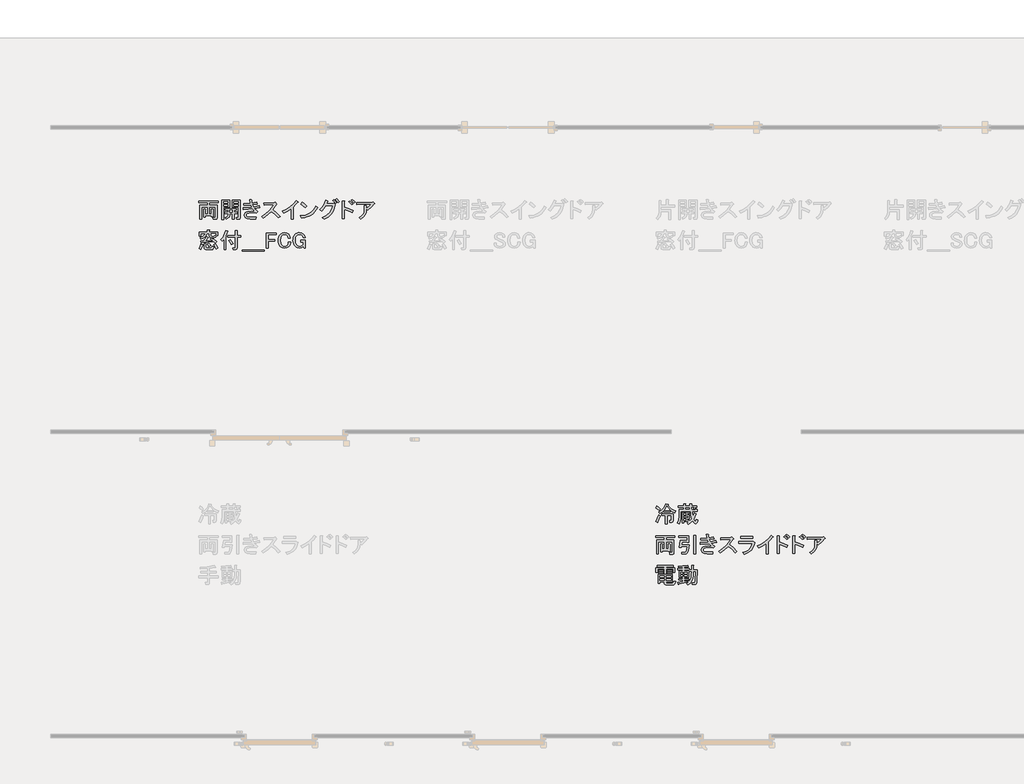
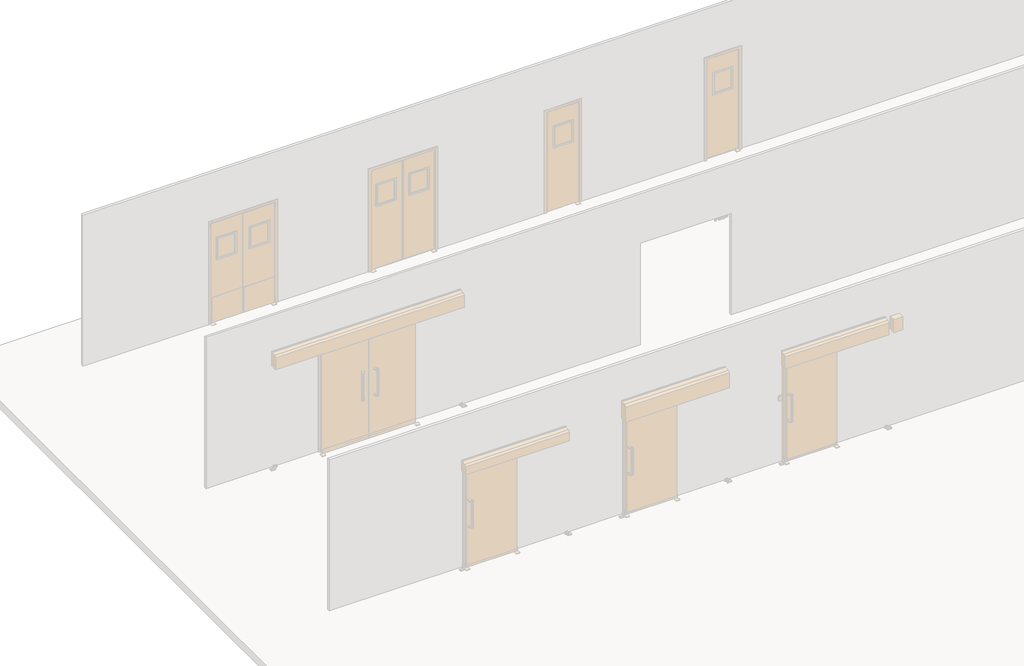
# One storey, part 77 of 117: 2 proxies.
"""IFC4 building model written with IfcOpenShell, lengths in millimetres."""

from ifc_helpers import new_model, si_unit, frame, origin, place, context, project, spatial, polyline, outline, extrude, element, save

model = new_model("IFC4")

# Units and contexts
model_context = context("Model", 3, world=origin())
ifc_project = project(units=[si_unit("LENGTHUNIT", "METRE", prefix="MILLI")], contexts=[model_context])

# Site, building, storey
site = spatial("IfcSite", under=ifc_project)
building = spatial("IfcBuilding", under=site)
storey = spatial("IfcBuildingStorey", under=building, Name="レベル 1", Elevation=500.0)

# Proxies
placement = place(None, origin())
element("IfcBuildingElementProxy", 1, Name="200㎜\u3000MS Pゴシック", ObjectType="200㎜\u3000MS Pゴシック", at=placement, inside=storey, context=model_context, shape_type="SweptSolid", body=[
    extrude(outline(polyline([(-24019.8425516, 31011.7252868), (-24019.8425516, 30976.0920778), (-23918.6902167, 30976.0920778), (-23918.6902167, 30807.1217001), (-23922.7133209, 30795.0523874), (-23934.7826336, 30791.0292832), (-23970.4158425, 30791.0292832), (-23973.8642176, 30812.8689919), (-23946.2772171, 30812.8689919), (-23942.8288421, 30814.0184502), (-23941.6793837, 30817.4668253), (-23941.6793837, 30954.2523692), (-24019.8425516, 30954.2523692), (-24019.8425516, 30858.8473259), (-23992.2555512, 30858.8473259), (-23992.2555512, 30924.366452), (-23970.4158425, 30924.366452), (-23965.5306445, 30922.0675353), (-23969.2663841, 30917.4697019), (-23969.2663841, 30826.6624921), (-23992.2555512, 30826.6624921), (-23992.2555512, 30837.0076172), (-24070.4187191, 30837.0076172), (-24070.4187191, 30817.4668253), (-24093.4078862, 30817.4668253), (-24093.4078862, 30924.366452), (-24071.5681775, 30924.366452), (-24066.6829795, 30922.0675353), (-24070.4187191, 30917.4697019), (-24070.4187191, 30858.8473259), (-24042.8317187, 30858.8473259), (-24042.8317187, 30954.2523692), (-24120.9948866, 30954.2523692), (-24120.9948866, 30792.1787415), (-24143.9840537, 30792.1787415), (-24143.9840537, 30976.0920778), (-24042.8317187, 30976.0920778), (-24042.8317187, 31011.7252868), (-24157.7775539, 31011.7252868), (-24157.7775539, 31033.5649954), (-23904.8967164, 31033.5649954), (-23904.8967164, 31011.7252868), (-24019.8425516, 31011.7252868)])), frame((0.0, 0.0, 500.0), z_axis=(0.0, 0.0, 1.0), x_axis=(1.0, 0.0, 0.0)), (0.0, 0.0, 1.0), 25.0),
    extrude(outline(polyline([(-23722.1328385, 31043.9101206), (-23614.0837534, 31043.9101206), (-23614.0837534, 30809.4206168), (-23618.6815868, 30795.6271166), (-23632.475087, 30791.0292832), (-23660.0620874, 30791.0292832), (-23663.5104625, 30812.8689919), (-23641.6707538, 30812.8689919), (-23638.2223788, 30814.0184502), (-23637.0729204, 30817.4668253), (-23637.0729204, 30948.5050774), (-23679.6028794, 30948.5050774), (-23722.1328385, 30948.5050774), (-23722.1328385, 31043.9101206)]), holes=[polyline([(-23637.0729204, 31004.8285366), (-23637.0729204, 31025.518787), (-23699.1436714, 31025.518787), (-23699.1436714, 31004.8285366), (-23637.0729204, 31004.8285366)]), polyline([(-23699.1436714, 30966.896411), (-23637.0729204, 30966.896411), (-23637.0729204, 30986.437203), (-23699.1436714, 30986.437203), (-23699.1436714, 30966.896411)])]), frame((0.0, 0.0, 500.0), z_axis=(0.0, 0.0, 1.0), x_axis=(1.0, 0.0, 0.0)), (0.0, 0.0, 1.0), 25.0),
    extrude(outline(polyline([(-23817.5378817, 30865.7440761), (-23817.5378817, 30884.1354097), (-23771.5595476, 30884.1354097), (-23771.5595476, 30911.7224101), (-23809.4916732, 30911.7224101), (-23809.4916732, 30930.1137438), (-23664.6599209, 30930.1137438), (-23664.6599209, 30911.7224101), (-23694.545838, 30911.7224101), (-23694.545838, 30884.1354097), (-23655.464254, 30884.1354097), (-23655.464254, 30865.7440761), (-23694.545838, 30865.7440761), (-23694.545838, 30796.7765749), (-23717.5350051, 30796.7765749), (-23717.5350051, 30865.7440761), (-23748.5703806, 30865.7440761), (-23750.9411384, 30842.1083387), (-23760.3523287, 30821.7772941), (-23776.8039513, 30804.7509422), (-23800.2960064, 30791.0292832), (-23811.7905899, 30812.8689919), (-23794.1895089, 30821.7772941), (-23781.6173082, 30833.5592422), (-23774.0739877, 30848.2148362), (-23771.5595476, 30865.7440761), (-23817.5378817, 30865.7440761)]), holes=[polyline([(-23717.5350051, 30884.1354097), (-23717.5350051, 30911.7224101), (-23748.5703806, 30911.7224101), (-23748.5703806, 30884.1354097), (-23717.5350051, 30884.1354097)])]), frame((0.0, 0.0, 500.0), z_axis=(0.0, 0.0, 1.0), x_axis=(1.0, 0.0, 0.0)), (0.0, 0.0, 1.0), 25.0),
    extrude(outline(polyline([(-23753.168214, 30948.5050774), (-23833.6302986, 30948.5050774), (-23833.6302986, 30787.5809081), (-23856.6194656, 30787.5809081), (-23856.6194656, 31043.9101206), (-23753.168214, 31043.9101206), (-23753.168214, 30948.5050774)]), holes=[polyline([(-23776.157381, 31025.518787), (-23833.6302986, 31025.518787), (-23833.6302986, 31004.8285366), (-23776.157381, 31004.8285366), (-23776.157381, 31025.518787)]), polyline([(-23833.6302986, 30966.896411), (-23776.157381, 30966.896411), (-23776.157381, 30986.437203), (-23833.6302986, 30986.437203), (-23833.6302986, 30966.896411)])]), frame((0.0, 0.0, 500.0), z_axis=(0.0, 0.0, 1.0), x_axis=(1.0, 0.0, 0.0)), (0.0, 0.0, 1.0), 25.0),
    extrude(outline(polyline([(-23453.1595841, 30982.988828), (-23439.3660839, 30954.2523692), (-23366.9502077, 30970.3447861), (-23356.6050825, 30946.2061607), (-23426.722042, 30933.5621188), (-23406.8938854, 30911.147681), (-23381.8931663, 30889.8827014), (-23401.4339582, 30870.3419095), (-23438.5039901, 30877.2386596), (-23466.9530843, 30879.5375763), (-23504.8852099, 30876.0892012), (-23517.8166164, 30871.7787324), (-23526.7249186, 30865.7440761), (-23532.759575, 30857.410503), (-23534.7711271, 30848.5022008), (-23533.0469395, 30838.1570756), (-23527.874377, 30830.1108671), (-23510.3451371, 30823.214117), (-23476.1487511, 30820.9152003), (-23406.0317916, 30820.9152003), (-23410.6296251, 30795.6271166), (-23480.7465845, 30795.6271166), (-23519.8281685, 30800.22495), (-23534.1963979, 30805.9722417), (-23545.1162522, 30814.0184502), (-23555.4613774, 30829.8235025), (-23558.9097525, 30849.6516591), (-23555.748742, 30865.7440761), (-23546.2657106, 30879.5375763), (-23533.9090333, 30888.0866728), (-23516.3797934, 30894.1931703), (-23465.803626, 30899.0783683), (-23424.4231253, 30895.6299932), (-23453.1595841, 30928.9642854), (-23509.7704079, 30923.7917228), (-23571.5537943, 30922.0675353), (-23575.0021694, 30946.2061607), (-23518.103981, 30946.7808899), (-23464.6541676, 30950.8039941), (-23477.2982095, 30979.5404529), (-23565.8065026, 30976.0920778), (-23568.1054193, 30999.0812449), (-23483.0455012, 31001.3801616), (-23492.2411681, 31048.507954), (-23466.9530843, 31048.507954), (-23460.918428, 31045.059579), (-23465.803626, 31039.3122872), (-23460.0563342, 31004.8285366), (-23399.1350415, 31016.3231202), (-23391.0888331, 30993.3339531), (-23453.1595841, 30982.988828)])), frame((0.0, 0.0, 500.0), z_axis=(0.0, 0.0, 1.0), x_axis=(1.0, 0.0, 0.0)), (0.0, 0.0, 1.0), 25.0),
    extrude(outline(polyline([(-23188.7381848, 30917.4697019), (-23139.5988402, 30876.6639304), (-23091.0342249, 30830.1108671), (-23114.0233919, 30810.5700752), (-23161.4385489, 30857.1231384), (-23207.1295184, 30895.6299932), (-23255.1194046, 30849.9390237), (-23309.4313117, 30809.4206168), (-23331.2710204, 30828.9614088), (-23275.8096549, 30868.6177219), (-23231.2681438, 30908.2740351), (-23197.646487, 30947.9303482), (-23174.9446846, 30987.5866614), (-23300.2356449, 30979.5404529), (-23303.68402, 31007.1274534), (-23170.3468511, 31012.8747451), (-23156.5533509, 31016.3231202), (-23138.1620173, 30997.9317865), (-23135.2883714, 30991.322401), (-23142.7598507, 30987.5866614), (-23188.7381848, 30917.4697019)])), frame((0.0, 0.0, 500.0), z_axis=(0.0, 0.0, 1.0), x_axis=(1.0, 0.0, 0.0)), (0.0, 0.0, 1.0), 25.0),
    extrude(outline(polyline([(-23060.6885244, 30896.7794516), (-23004.0058594, 30924.6538166), (-22954.6509914, 30957.7007442), (-22912.6239204, 30995.9202344), (-22877.9246464, 31039.3122872), (-22856.0849377, 31020.9209536), (-22853.4986564, 31014.8862972), (-22864.1311462, 31010.5758284), (-22889.1318653, 30981.552005), (-22920.4546054, 30951.9534525), (-22920.4546054, 30795.6271166), (-22946.8921475, 30795.6271166), (-22946.8921475, 30930.1137438), (-22990.5715649, 30900.5151912), (-23041.1477324, 30873.7902845), (-23060.6885244, 30896.7794516)])), frame((0.0, 0.0, 500.0), z_axis=(0.0, 0.0, 1.0), x_axis=(1.0, 0.0, 0.0)), (0.0, 0.0, 1.0), 25.0),
    extrude(outline(polyline([(-22597.5487652, 30946.2061607), (-22614.072229, 30916.4639258), (-22633.1819741, 30890.4574306), (-22654.8780005, 30868.186675), (-22679.1603081, 30849.6516591), (-22706.0288971, 30834.8523828), (-22735.4837674, 30823.7888462), (-22767.524919, 30816.4610492), (-22802.1523518, 30812.8689919), (-22807.8996436, 30804.8227834), (-22813.6469353, 30810.5700752), (-22822.8426022, 30840.4559923), (-22787.0118301, 30843.132075), (-22754.2343068, 30849.4361357), (-22724.5100322, 30859.3681743), (-22697.8390064, 30872.9281908), (-22674.2212293, 30890.1161852), (-22653.656701, 30910.9321575), (-22636.1454214, 30935.3761078), (-22621.6873905, 30963.448036), (-22597.5487652, 30946.2061607)])), frame((0.0, 0.0, 500.0), z_axis=(0.0, 0.0, 1.0), x_axis=(1.0, 0.0, 0.0)), (0.0, 0.0, 1.0), 25.0),
    extrude(outline(polyline([(-22759.6223928, 30946.2061607), (-22818.2447687, 30993.3339531), (-22798.7039768, 31017.4725785), (-22771.4043409, 30997.6444219), (-22737.7826841, 30968.0458694), (-22759.6223928, 30946.2061607)])), frame((0.0, 0.0, 500.0), z_axis=(0.0, 0.0, 1.0), x_axis=(1.0, 0.0, 0.0)), (0.0, 0.0, 1.0), 25.0),
    extrude(outline(polyline([(-22362.875348, 30997.9317865), (-22380.979317, 31021.2083182), (-22398.5085569, 31038.1628289), (-22383.5655983, 31050.8068707), (-22346.7829311, 31010.5758284), (-22362.875348, 30997.9317865)])), frame((0.0, 0.0, 500.0), z_axis=(0.0, 0.0, 1.0), x_axis=(1.0, 0.0, 0.0)), (0.0, 0.0, 1.0), 25.0),
    extrude(outline(polyline([(-22329.5410558, 31011.7252868), (-22362.875348, 31048.507954), (-22349.0818478, 31062.3014543), (-22315.7475556, 31025.518787), (-22329.5410558, 31011.7252868)])), frame((0.0, 0.0, 500.0), z_axis=(0.0, 0.0, 1.0), x_axis=(1.0, 0.0, 0.0)), (0.0, 0.0, 1.0), 25.0),
    extrude(outline(polyline([(-22369.7720981, 30970.3447861), (-22376.7945702, 30940.1355838), (-22386.9421322, 30912.153457), (-22400.2147842, 30886.3984058), (-22416.612526, 30862.8704302), (-22436.1353577, 30841.5695301), (-22458.7832793, 30822.4957056), (-22484.5562907, 30805.6489566), (-22513.4543921, 30791.0292832), (-22534.1446425, 30812.8689919), (-22483.4247927, 30840.0249454), (-22462.2675749, 30856.7280121), (-22443.9121618, 30875.514472), (-22428.3585535, 30896.3843252), (-22415.6067499, 30919.3375717), (-22405.656751, 30944.3742114), (-22398.5085569, 30971.4942444), (-22490.4652251, 30971.4942444), (-22517.4774964, 30932.1252959), (-22545.639226, 30901.377285), (-22568.628393, 30916.3202435), (-22541.4005983, 30944.4819732), (-22519.4890485, 30974.9426195), (-22502.8937435, 31007.7021825), (-22491.6146834, 31042.7606623), (-22465.1771413, 31033.5649954), (-22462.3034955, 31030.1166204), (-22467.476058, 31026.6682453), (-22480.1200999, 30996.7823282), (-22397.3590986, 30996.7823282), (-22387.0139734, 31002.5296199), (-22366.3237231, 30981.8393696), (-22363.1627126, 30974.9426195), (-22369.7720981, 30970.3447861)])), frame((0.0, 0.0, 500.0), z_axis=(0.0, 0.0, 1.0), x_axis=(1.0, 0.0, 0.0)), (0.0, 0.0, 1.0), 25.0),
    extrude(outline(polyline([(-22120.7534407, 31003.6790783), (-22137.7079514, 31022.9325057), (-22158.6855663, 31041.6112039), (-22143.7426078, 31053.1057874), (-22124.4891804, 31036.7260059), (-22105.8104822, 31015.1736618), (-22120.7534407, 31003.6790783)])), frame((0.0, 0.0, 500.0), z_axis=(0.0, 0.0, 1.0), x_axis=(1.0, 0.0, 0.0)), (0.0, 0.0, 1.0), 25.0),
    extrude(outline(polyline([(-22146.0415245, 30880.6870346), (-22201.50289, 30906.5498475), (-22246.0444011, 30922.0675353), (-22246.0444011, 30802.5238667), (-22272.4819432, 30802.5238667), (-22272.4819432, 31032.4155371), (-22249.4927762, 31032.4155371), (-22241.7339323, 31029.5418912), (-22246.0444011, 31023.2198703), (-22246.0444011, 30950.8039941), (-22189.4335773, 30931.8379313), (-22132.2480242, 30907.1245767), (-22146.0415245, 30880.6870346)])), frame((0.0, 0.0, 500.0), z_axis=(0.0, 0.0, 1.0), x_axis=(1.0, 0.0, 0.0)), (0.0, 0.0, 1.0), 25.0),
    extrude(outline(polyline([(-22148.3404412, 30981.8393696), (-22167.8812332, 31003.6790783), (-22187.4220251, 31020.9209536), (-22172.4790666, 31032.4155371), (-22152.9382746, 31015.1736618), (-22133.3974826, 30993.3339531), (-22148.3404412, 30981.8393696)])), frame((0.0, 0.0, 500.0), z_axis=(0.0, 0.0, 1.0), x_axis=(1.0, 0.0, 0.0)), (0.0, 0.0, 1.0), 25.0),
    extrude(outline(polyline([(-21957.8062247, 30930.1137438), (-21961.6138055, 30888.8769254), (-21975.3354646, 30852.525305), (-21998.971202, 30821.0588826), (-22032.5210176, 30794.4776582), (-22052.0618096, 30816.3173669), (-22022.3914159, 30836.5765704), (-22001.1982775, 30860.5715135), (-21988.4823945, 30888.3021962), (-21984.2437668, 30919.7686186), (-21984.2437668, 30969.1953277), (-21960.1051414, 30969.1953277), (-21954.3578497, 30966.6090464), (-21957.8062247, 30961.1491193), (-21957.8062247, 30931.2632021), (-21921.3109221, 30962.011213), (-21894.5860154, 30992.1844948), (-22081.9477268, 30985.2877447), (-22084.2466435, 31011.7252868), (-21875.0452234, 31017.4725785), (-21866.9990149, 31019.7714952), (-21849.7571396, 30999.0812449), (-21849.4697751, 30995.9202344), (-21855.5044314, 30995.6328698), (-21893.436557, 30952.240817), (-21938.2654328, 30911.7224101), (-21957.8062247, 30930.1137438)])), frame((0.0, 0.0, 500.0), z_axis=(0.0, 0.0, 1.0), x_axis=(1.0, 0.0, 0.0)), (0.0, 0.0, 1.0), 25.0),
    extrude(outline(polyline([(-24024.440385, 30433.5592422), (-24034.210781, 30449.6516591), (-24049.7284688, 30468.0429928), (-24030.1876768, 30480.6870346), (-24015.8194474, 30466.8935344), (-24002.6006764, 30448.5022008), (-24024.440385, 30433.5592422)])), frame((0.0, 0.0, 500.0), z_axis=(0.0, 0.0, 1.0), x_axis=(1.0, 0.0, 0.0)), (0.0, 0.0, 1.0), 25.0),
    extrude(outline(polyline([(-24155.4786372, 30405.9722417), (-24140.248314, 30437.869711), (-24131.3400118, 30466.8935344), (-24108.3508447, 30458.8473259), (-24106.3392926, 30455.3989509), (-24109.5003031, 30451.9505758), (-24119.2706991, 30421.4899295), (-24132.4894701, 30394.4776582), (-24155.4786372, 30405.9722417)])), frame((0.0, 0.0, 500.0), z_axis=(0.0, 0.0, 1.0), x_axis=(1.0, 0.0, 0.0)), (0.0, 0.0, 1.0), 25.0),
    extrude(outline(polyline([(-23909.4945498, 30624.3693286), (-23909.4945498, 30579.5404529), (-23929.0353418, 30579.5404529), (-23937.9436441, 30560.5743901), (-23944.768553, 30555.8328744), (-23953.1739672, 30554.2523692), (-24001.451218, 30554.2523692), (-24014.3826245, 30558.8502026), (-24018.6930933, 30572.6437028), (-24018.6930933, 30605.977995), (-24053.1768438, 30605.977995), (-24058.5649299, 30582.8451457), (-24073.5797296, 30562.8733068), (-24098.221243, 30546.0624784), (-24132.4894701, 30532.4126605), (-24139.3862203, 30554.2523692), (-24111.7273787, 30563.950924), (-24091.9710632, 30575.8047133), (-24080.117274, 30589.8137369), (-24076.1660109, 30605.977995), (-24130.1905534, 30605.977995), (-24130.1905534, 30573.7931611), (-24153.1797205, 30573.7931611), (-24153.1797205, 30624.3693286), (-24043.981177, 30624.3693286), (-24043.981177, 30651.9563291), (-24022.1414683, 30651.9563291), (-24017.2562703, 30649.6574124), (-24020.99201, 30645.059579), (-24020.99201, 30624.3693286), (-23909.4945498, 30624.3693286)]), holes=[polyline([(-23960.0707173, 30572.6437028), (-23953.4613318, 30576.0920778), (-23949.7255922, 30586.437203), (-23932.4837169, 30581.8393696), (-23932.4837169, 30605.977995), (-23995.7039262, 30605.977995), (-23995.7039262, 30579.5404529), (-23993.9797387, 30574.3678903), (-23988.8071761, 30572.6437028), (-23960.0707173, 30572.6437028)])]), frame((0.0, 0.0, 500.0), z_axis=(0.0, 0.0, 1.0), x_axis=(1.0, 0.0, 0.0)), (0.0, 0.0, 1.0), 25.0),
    extrude(outline(polyline([(-24066.9703441, 30393.3281999), (-24082.4880318, 30398.2133979), (-24086.3674538, 30404.3198954), (-24087.6605944, 30412.8689919), (-24087.6605944, 30470.3419095), (-24065.8208857, 30470.3419095), (-24060.9356877, 30468.0429928), (-24064.6714274, 30463.4451593), (-24064.6714274, 30423.214117), (-24062.9472398, 30417.1794607), (-24057.7746773, 30415.1679086), (-23996.8533846, 30415.1679086), (-23991.7526632, 30416.7484138), (-23987.9450824, 30421.4899295), (-23984.2093427, 30440.4559923), (-23958.921259, 30434.7087005), (-23961.7949049, 30416.6047315), (-23966.9674674, 30403.673325), (-23974.4389467, 30395.9144812), (-23984.2093427, 30393.3281999), (-24066.9703441, 30393.3281999)])), frame((0.0, 0.0, 500.0), z_axis=(0.0, 0.0, 1.0), x_axis=(1.0, 0.0, 0.0)), (0.0, 0.0, 1.0), 25.0),
    extrude(outline(polyline([(-24122.144345, 30484.1354097), (-24124.1558971, 30479.2502117), (-24127.8916367, 30480.6870346), (-24133.6389285, 30505.9751184), (-24098.0057196, 30505.9751184), (-24054.3263022, 30566.896411), (-24031.3371352, 30553.1029108), (-24032.1992289, 30549.3671712), (-24037.0844269, 30549.6545358), (-24076.1660109, 30505.9751184), (-23977.3125926, 30511.7224101), (-24008.3479681, 30533.5621188), (-23993.4050095, 30546.2061607), (-23961.7949049, 30528.3895562), (-23922.1385917, 30495.6299932), (-23942.8288421, 30479.5375763), (-23958.921259, 30495.6299932), (-24122.144345, 30484.1354097)])), frame((0.0, 0.0, 500.0), z_axis=(0.0, 0.0, 1.0), x_axis=(1.0, 0.0, 0.0)), (0.0, 0.0, 1.0), 25.0),
    extrude(outline(polyline([(-23945.1277588, 30470.3419095), (-23923.5754147, 30443.9043674), (-23907.1956331, 30415.1679086), (-23930.1848002, 30400.22495), (-23945.4151233, 30431.2603255), (-23963.5190924, 30457.6978676), (-23945.1277588, 30470.3419095)])), frame((0.0, 0.0, 500.0), z_axis=(0.0, 0.0, 1.0), x_axis=(1.0, 0.0, 0.0)), (0.0, 0.0, 1.0), 25.0),
    extrude(outline(polyline([(-23784.2035895, 30627.8177037), (-23792.8245271, 30599.0812449), (-23804.8938398, 30570.3447861), (-23798.5718189, 30566.896411), (-23802.5949231, 30561.1491193), (-23802.5949231, 30391.0292832), (-23825.5840901, 30391.0292832), (-23825.5840901, 30533.5621188), (-23850.8721739, 30502.5267433), (-23869.2635075, 30523.2169937), (-23846.7053874, 30548.4332363), (-23828.457736, 30576.9541716), (-23814.5205535, 30608.7797997), (-23804.8938398, 30643.9101206), (-23780.7552144, 30634.7144538), (-23779.3183915, 30630.6913496), (-23784.2035895, 30627.8177037)])), frame((0.0, 0.0, 500.0), z_axis=(0.0, 0.0, 1.0), x_axis=(1.0, 0.0, 0.0)), (0.0, 0.0, 1.0), 25.0),
    extrude(outline(polyline([(-23677.3039627, 30577.2415362), (-23677.3039627, 30642.7606623), (-23655.464254, 30642.7606623), (-23650.579056, 30640.4617456), (-23654.3147957, 30635.8639122), (-23654.3147957, 30577.2415362), (-23607.1870033, 30577.2415362), (-23607.1870033, 30555.4018275), (-23654.3147957, 30555.4018275), (-23654.3147957, 30412.8689919), (-23658.9126291, 30399.0754916), (-23672.7061293, 30394.4776582), (-23707.1898799, 30394.4776582), (-23712.9371716, 30416.3173669), (-23681.9017961, 30416.3173669), (-23678.4534211, 30417.4668253), (-23677.3039627, 30420.9152003), (-23677.3039627, 30555.4018275), (-23780.7552144, 30555.4018275), (-23780.7552144, 30577.2415362), (-23677.3039627, 30577.2415362)])), frame((0.0, 0.0, 500.0), z_axis=(0.0, 0.0, 1.0), x_axis=(1.0, 0.0, 0.0)), (0.0, 0.0, 1.0), 25.0),
    extrude(outline(polyline([(-23743.9725471, 30525.5159104), (-23708.3393382, 30471.4913678), (-23731.3285053, 30456.5484092), (-23747.9956514, 30487.0090556), (-23765.8122558, 30511.7224101), (-23743.9725471, 30525.5159104)])), frame((0.0, 0.0, 500.0), z_axis=(0.0, 0.0, 1.0), x_axis=(1.0, 0.0, 0.0)), (0.0, 0.0, 1.0), 25.0),
    extrude(outline(polyline([(-23589.945128, 30385.2819914), (-23296.8332482, 30385.2819914), (-23296.8332482, 30372.6379495), (-23589.945128, 30372.6379495), (-23589.945128, 30385.2819914)])), frame((0.0, 0.0, 500.0), z_axis=(0.0, 0.0, 1.0), x_axis=(1.0, 0.0, 0.0)), (0.0, 0.0, 1.0), 25.0),
    extrude(outline(polyline([(-23272.6946228, 30612.8747451), (-23140.5069123, 30612.8747451), (-23140.5069123, 30591.0350364), (-23246.2570807, 30591.0350364), (-23246.2570807, 30526.6653687), (-23163.4960794, 30526.6653687), (-23163.4960794, 30504.82566), (-23246.2570807, 30504.82566), (-23246.2570807, 30416.3173669), (-23272.6946228, 30416.3173669), (-23272.6946228, 30612.8747451)])), frame((0.0, 0.0, 500.0), z_axis=(0.0, 0.0, 1.0), x_axis=(1.0, 0.0, 0.0)), (0.0, 0.0, 1.0), 25.0),
    extrude(outline(polyline([(-23117.747637, 30514.0213268), (-23115.9516083, 30537.9444288), (-23110.5635223, 30559.1375672), (-23101.5833789, 30577.6007419), (-23089.0111782, 30593.3339531), (-23064.010459, 30609.7137346), (-23032.6877189, 30615.1736618), (-23001.939708, 30610.2884638), (-22978.6631764, 30595.6328698), (-22962.858124, 30572.0689736), (-22956.8234677, 30542.7577856), (-22984.4104681, 30542.7577856), (-22989.2956661, 30564.0227652), (-22999.3534267, 30579.5404529), (-23014.5837499, 30589.8855781), (-23032.6877189, 30593.3339531), (-23052.2285109, 30589.3108489), (-23069.4703862, 30577.2415362), (-23078.5223707, 30565.5314292), (-23084.9880739, 30551.0913587), (-23090.1606365, 30514.0213268), (-23084.9880739, 30476.951295), (-23078.5223707, 30462.5112244), (-23069.4703862, 30450.8011175), (-23052.8032401, 30439.5938985), (-23032.6877189, 30435.8581589), (-23012.2848332, 30439.0191694), (-22997.05451, 30448.5022008), (-22984.9851973, 30468.0429928), (-22980.9620931, 30494.4805349), (-22953.3750926, 30494.4805349), (-22959.6971135, 30459.7094197), (-22966.737546, 30445.5567137), (-22976.3642597, 30433.5592422), (-22987.2122729, 30425.0101457), (-23000.2155205, 30418.9036482), (-23032.6877189, 30414.0184502), (-23064.010459, 30419.4783774), (-23089.0111782, 30435.8581589), (-23101.5833789, 30451.5195289), (-23110.5635223, 30469.7671803), (-23115.9516083, 30490.6011129), (-23117.747637, 30514.0213268)])), frame((0.0, 0.0, 500.0), z_axis=(0.0, 0.0, 1.0), x_axis=(1.0, 0.0, 0.0)), (0.0, 0.0, 1.0), 25.0),
    extrude(outline(polyline([(-22921.2362371, 30514.0213268), (-22919.5838907, 30537.8007465), (-22914.6268516, 30558.562838), (-22906.3651197, 30576.3076013), (-22894.798695, 30591.0350364), (-22882.082812, 30601.595685), (-22868.0737883, 30609.1390055), (-22852.771624, 30613.6649977), (-22836.176319, 30615.1736618), (-22804.8535789, 30609.7137346), (-22779.8528598, 30593.3339531), (-22765.771995, 30572.9310674), (-22760.3120678, 30548.5050774), (-22787.8990683, 30548.5050774), (-22791.9221725, 30566.3216819), (-22801.6925685, 30580.6899113), (-22816.6355271, 30590.1729427), (-22836.176319, 30593.3339531), (-22856.2918402, 30589.5982135), (-22872.9589863, 30578.3909946), (-22882.0109708, 30566.6090464), (-22888.4766741, 30551.9534525), (-22893.6492366, 30514.0213268), (-22888.1893095, 30477.5260242), (-22881.3644005, 30462.9422713), (-22871.809528, 30450.8011175), (-22853.9929235, 30439.5938985), (-22830.4290273, 30435.8581589), (-22812.6124228, 30439.0191694), (-22798.2441934, 30448.5022008), (-22788.1864328, 30461.4336072), (-22783.3012348, 30474.9397429), (-22783.3012348, 30493.3310765), (-22816.6355271, 30493.3310765), (-22816.6355271, 30515.1707852), (-22756.8636927, 30515.1707852), (-22756.8636927, 30414.0184502), (-22776.4044847, 30414.0184502), (-22783.3012348, 30433.5592422), (-22805.4283081, 30418.9036482), (-22832.727944, 30414.0184502), (-22866.0622362, 30419.765742), (-22880.143101, 30426.9498567), (-22892.4997783, 30437.0076172), (-22905.071979, 30452.5971461), (-22914.0521224, 30470.629274), (-22919.4402084, 30491.1040009), (-22921.2362371, 30514.0213268)])), frame((0.0, 0.0, 500.0), z_axis=(0.0, 0.0, 1.0), x_axis=(1.0, 0.0, 0.0)), (0.0, 0.0, 1.0), 25.0),
])
element("IfcBuildingElementProxy", 2, Name="200㎜\u3000MS Pゴシック", ObjectType="200㎜\u3000MS Pゴシック", at=placement, inside=storey, context=model_context, shape_type="SweptSolid", body=[
    extrude(outline(polyline([(-18116.3970532, 26948.5050774), (-18082.7035553, 26967.9021871), (-18056.3378543, 26991.6097656), (-18037.2999504, 27019.6278129), (-18025.5898434, 27051.9563291), (-17994.5544679, 27043.9101206), (-17993.117645, 27040.174381), (-17998.002843, 27038.1628289), (-17979.1804624, 27010.6476696), (-17956.0476131, 26987.874026), (-17928.6042949, 26969.8418981), (-17896.850508, 26956.5512859), (-17908.3450915, 26932.4126605), (-17937.3689149, 26945.9187961), (-17966.9674674, 26965.7469527), (-17966.9674674, 26946.2061607), (-18049.7284688, 26946.2061607), (-18049.7284688, 26964.5974943), (-18074.1544588, 26942.7577856), (-18103.7530113, 26923.2169937), (-18116.3970532, 26948.5050774)]), holes=[polyline([(-17969.2663841, 26968.0458694), (-17995.4165617, 26995.3455052), (-18011.7963432, 27022.0704119), (-18025.5898434, 26993.0465885), (-18046.2800937, 26968.0458694), (-17969.2663841, 26968.0458694)])]), frame((0.0, 0.0, 500.0), z_axis=(0.0, 0.0, 1.0), x_axis=(1.0, 0.0, 0.0)), (0.0, 0.0, 1.0), 25.0),
    extrude(outline(polyline([(-18158.9270122, 26822.0646587), (-18135.9378452, 26861.7209718), (-18117.5465116, 26904.82566), (-18096.8562612, 26892.1816181), (-18114.3855011, 26848.2148362), (-18132.4894701, 26812.8689919), (-18133.0641993, 26806.5469709), (-18137.0873035, 26805.9722417), (-18158.9270122, 26822.0646587)])), frame((0.0, 0.0, 500.0), z_axis=(0.0, 0.0, 1.0), x_axis=(1.0, 0.0, 0.0)), (0.0, 0.0, 1.0), 25.0),
    extrude(outline(polyline([(-18079.6143859, 26897.9289099), (-18079.6143859, 26919.7686186), (-17930.1848002, 26919.7686186), (-17930.1848002, 26825.5130337), (-17934.2079044, 26814.3058148), (-17946.2772171, 26810.5700752), (-17971.5653009, 26810.5700752), (-17976.1631343, 26832.4097838), (-17957.7718006, 26832.4097838), (-17954.3234256, 26833.5592422), (-17953.1739672, 26837.0076172), (-17953.1739672, 26897.9289099), (-18007.1985098, 26897.9289099), (-18007.1985098, 26786.4314498), (-18030.1876768, 26786.4314498), (-18030.1876768, 26897.9289099), (-18079.6143859, 26897.9289099)])), frame((0.0, 0.0, 500.0), z_axis=(0.0, 0.0, 1.0), x_axis=(1.0, 0.0, 0.0)), (0.0, 0.0, 1.0), 25.0),
    extrude(outline(polyline([(-18141.685137, 27022.0704119), (-18120.9948866, 27009.1390055), (-18098.0057196, 26988.7361197), (-18114.0981365, 26965.7469527), (-18155.4786372, 27000.2307032), (-18141.685137, 27022.0704119)])), frame((0.0, 0.0, 500.0), z_axis=(0.0, 0.0, 1.0), x_axis=(1.0, 0.0, 0.0)), (0.0, 0.0, 1.0), 25.0),
    extrude(outline(polyline([(-17711.7877133, 26826.6624921), (-17685.3501712, 26853.1000342), (-17695.4079318, 26900.8025558), (-17700.2931298, 26954.2523692), (-17825.5840901, 26954.2523692), (-17825.5840901, 26879.5375763), (-17827.1645954, 26853.5310811), (-17831.9061111, 26829.536138), (-17839.8086373, 26807.552747), (-17850.8721739, 26787.5809081), (-17871.5624242, 26803.673325), (-17861.5046636, 26821.9209764), (-17854.3205489, 26842.1801798), (-17848.5732572, 26888.7332431), (-17848.5732572, 26976.0920778), (-17701.4425881, 26976.0920778), (-17701.4425881, 26987.5866614), (-17708.3393382, 26987.5866614), (-17708.3393382, 27005.977995), (-17768.1111725, 27005.977995), (-17768.1111725, 26984.1382863), (-17791.1003396, 26984.1382863), (-17791.1003396, 27005.977995), (-17860.0678407, 27005.977995), (-17860.0678407, 27027.8177037), (-17791.1003396, 27027.8177037), (-17791.1003396, 27053.1057874), (-17769.2606309, 27053.1057874), (-17764.3754329, 27050.8068707), (-17768.1111725, 27046.2090373), (-17768.1111725, 27027.8177037), (-17708.3393382, 27027.8177037), (-17708.3393382, 27053.1057874), (-17686.4996295, 27053.1057874), (-17681.6144316, 27050.8068707), (-17685.3501712, 27046.2090373), (-17685.3501712, 27027.8177037), (-17615.2332117, 27027.8177037), (-17615.2332117, 27005.977995), (-17652.015879, 27005.977995), (-17629.0267119, 26989.8855781), (-17642.8202122, 26976.0920778), (-17614.0837534, 26976.0920778), (-17614.0837534, 26954.2523692), (-17678.4534211, 26954.2523692), (-17669.2577543, 26877.2386596), (-17649.7169623, 26932.4126605), (-17626.7277952, 26922.0675353), (-17623.2794202, 26918.3317957), (-17629.0267119, 26916.3202435), (-17642.245483, 26882.4112222), (-17658.9126291, 26849.6516591), (-17646.8433164, 26828.099315), (-17635.9234621, 26820.9152003), (-17631.9003578, 26824.3635754), (-17629.0267119, 26834.7087005), (-17626.7277952, 26849.6516591), (-17604.8880866, 26841.6054507), (-17608.3364616, 26824.3635754), (-17617.819493, 26798.5007625), (-17624.5007197, 26792.0350592), (-17632.475087, 26789.8798248), (-17642.3891653, 26792.394265), (-17652.5906082, 26799.9375854), (-17673.8555877, 26830.1108671), (-17703.4541402, 26802.5238667), (-17730.1790469, 26784.1325331), (-17746.2714639, 26804.8227834), (-17723.2822968, 26818.6162836), (-17789.9508812, 26818.6162836), (-17789.9508812, 26801.3744083), (-17809.4916732, 26801.3744083), (-17809.4916732, 26942.7577856), (-17710.6382549, 26942.7577856), (-17710.6382549, 26924.366452), (-17743.9725471, 26924.366452), (-17743.9725471, 26908.2740351), (-17715.2360883, 26908.2740351), (-17715.2360883, 26855.3989509), (-17743.9725471, 26855.3989509), (-17743.9725471, 26837.0076172), (-17711.7877133, 26837.0076172), (-17711.7877133, 26826.6624921)]), holes=[polyline([(-17680.7523378, 26988.7361197), (-17675.8671398, 26986.1498384), (-17679.6028794, 26982.988828), (-17679.6028794, 26976.0920778), (-17646.2685872, 26976.0920778), (-17669.2577543, 26993.3339531), (-17656.6137124, 27005.977995), (-17685.3501712, 27005.977995), (-17685.3501712, 26988.7361197), (-17680.7523378, 26988.7361197)]), polyline([(-17789.9508812, 26908.2740351), (-17763.5133391, 26908.2740351), (-17763.5133391, 26924.366452), (-17789.9508812, 26924.366452), (-17789.9508812, 26908.2740351)]), polyline([(-17789.9508812, 26873.7902845), (-17734.7768803, 26873.7902845), (-17734.7768803, 26889.8827014), (-17789.9508812, 26889.8827014), (-17789.9508812, 26873.7902845)]), polyline([(-17789.9508812, 26837.0076172), (-17763.5133391, 26837.0076172), (-17763.5133391, 26855.3989509), (-17789.9508812, 26855.3989509), (-17789.9508812, 26837.0076172)])]), frame((0.0, 0.0, 500.0), z_axis=(0.0, 0.0, 1.0), x_axis=(1.0, 0.0, 0.0)), (0.0, 0.0, 1.0), 25.0),
    extrude(outline(polyline([(-18019.8425516, 26611.7252868), (-18019.8425516, 26576.0920778), (-17918.6902167, 26576.0920778), (-17918.6902167, 26407.1217001), (-17922.7133209, 26395.0523874), (-17934.7826336, 26391.0292832), (-17970.4158425, 26391.0292832), (-17973.8642176, 26412.8689919), (-17946.2772171, 26412.8689919), (-17942.8288421, 26414.0184502), (-17941.6793837, 26417.4668253), (-17941.6793837, 26554.2523692), (-18019.8425516, 26554.2523692), (-18019.8425516, 26458.8473259), (-17992.2555512, 26458.8473259), (-17992.2555512, 26524.366452), (-17970.4158425, 26524.366452), (-17965.5306445, 26522.0675353), (-17969.2663841, 26517.4697019), (-17969.2663841, 26426.6624921), (-17992.2555512, 26426.6624921), (-17992.2555512, 26437.0076172), (-18070.4187191, 26437.0076172), (-18070.4187191, 26417.4668253), (-18093.4078862, 26417.4668253), (-18093.4078862, 26524.366452), (-18071.5681775, 26524.366452), (-18066.6829795, 26522.0675353), (-18070.4187191, 26517.4697019), (-18070.4187191, 26458.8473259), (-18042.8317187, 26458.8473259), (-18042.8317187, 26554.2523692), (-18120.9948866, 26554.2523692), (-18120.9948866, 26392.1787415), (-18143.9840537, 26392.1787415), (-18143.9840537, 26576.0920778), (-18042.8317187, 26576.0920778), (-18042.8317187, 26611.7252868), (-18157.7775539, 26611.7252868), (-18157.7775539, 26633.5649954), (-17904.8967164, 26633.5649954), (-17904.8967164, 26611.7252868), (-18019.8425516, 26611.7252868)])), frame((0.0, 0.0, 500.0), z_axis=(0.0, 0.0, 1.0), x_axis=(1.0, 0.0, 0.0)), (0.0, 0.0, 1.0), 25.0),
    extrude(outline(polyline([(-17719.8339218, 26511.7224101), (-17729.0295886, 26441.8928152), (-17735.3516095, 26419.2628539), (-17742.8230888, 26404.8227834), (-17753.4555786, 26397.0639395), (-17769.2606309, 26394.4776582), (-17815.238965, 26394.4776582), (-17818.68734, 26416.3173669), (-17776.157381, 26416.3173669), (-17765.5248912, 26418.328919), (-17758.9155057, 26424.3635754), (-17750.8692973, 26448.2148362), (-17745.1220055, 26489.8827014), (-17822.1357151, 26489.8827014), (-17824.4346318, 26478.3881179), (-17848.5732572, 26481.836493), (-17832.4808403, 26574.9426195), (-17746.2714639, 26574.9426195), (-17746.2714639, 26611.7252868), (-17852.0216322, 26611.7252868), (-17852.0216322, 26633.5649954), (-17723.2822968, 26633.5649954), (-17723.2822968, 26547.355619), (-17746.2714639, 26547.355619), (-17746.2714639, 26553.1029108), (-17810.6411316, 26553.1029108), (-17817.5378817, 26511.7224101), (-17719.8339218, 26511.7224101)])), frame((0.0, 0.0, 500.0), z_axis=(0.0, 0.0, 1.0), x_axis=(1.0, 0.0, 0.0)), (0.0, 0.0, 1.0), 25.0),
    extrude(outline(polyline([(-17633.6245454, 26396.7765749), (-17656.6137124, 26396.7765749), (-17656.6137124, 26637.0133705), (-17634.7740037, 26637.0133705), (-17629.8888057, 26634.7144538), (-17633.6245454, 26630.1166204), (-17633.6245454, 26396.7765749)])), frame((0.0, 0.0, 500.0), z_axis=(0.0, 0.0, 1.0), x_axis=(1.0, 0.0, 0.0)), (0.0, 0.0, 1.0), 25.0),
    extrude(outline(polyline([(-17453.1595841, 26582.988828), (-17439.3660839, 26554.2523692), (-17366.9502077, 26570.3447861), (-17356.6050825, 26546.2061607), (-17426.722042, 26533.5621188), (-17406.8938854, 26511.147681), (-17381.8931663, 26489.8827014), (-17401.4339582, 26470.3419095), (-17438.5039901, 26477.2386596), (-17466.9530843, 26479.5375763), (-17504.8852099, 26476.0892012), (-17517.8166164, 26471.7787324), (-17526.7249186, 26465.7440761), (-17532.759575, 26457.410503), (-17534.7711271, 26448.5022008), (-17533.0469395, 26438.1570756), (-17527.874377, 26430.1108671), (-17510.3451371, 26423.214117), (-17476.1487511, 26420.9152003), (-17406.0317916, 26420.9152003), (-17410.6296251, 26395.6271166), (-17480.7465845, 26395.6271166), (-17519.8281685, 26400.22495), (-17534.1963979, 26405.9722417), (-17545.1162522, 26414.0184502), (-17555.4613774, 26429.8235025), (-17558.9097525, 26449.6516591), (-17555.748742, 26465.7440761), (-17546.2657106, 26479.5375763), (-17533.9090333, 26488.0866728), (-17516.3797934, 26494.1931703), (-17465.803626, 26499.0783683), (-17424.4231253, 26495.6299932), (-17453.1595841, 26528.9642854), (-17509.7704079, 26523.7917228), (-17571.5537943, 26522.0675353), (-17575.0021694, 26546.2061607), (-17518.103981, 26546.7808899), (-17464.6541676, 26550.8039941), (-17477.2982095, 26579.5404529), (-17565.8065026, 26576.0920778), (-17568.1054193, 26599.0812449), (-17483.0455012, 26601.3801616), (-17492.2411681, 26648.507954), (-17466.9530843, 26648.507954), (-17460.918428, 26645.059579), (-17465.803626, 26639.3122872), (-17460.0563342, 26604.8285366), (-17399.1350415, 26616.3231202), (-17391.0888331, 26593.3339531), (-17453.1595841, 26582.988828)])), frame((0.0, 0.0, 500.0), z_axis=(0.0, 0.0, 1.0), x_axis=(1.0, 0.0, 0.0)), (0.0, 0.0, 1.0), 25.0),
    extrude(outline(polyline([(-17188.7381848, 26517.4697019), (-17139.5988402, 26476.6639304), (-17091.0342249, 26430.1108671), (-17114.0233919, 26410.5700752), (-17161.4385489, 26457.1231384), (-17207.1295184, 26495.6299932), (-17255.1194046, 26449.9390237), (-17309.4313117, 26409.4206168), (-17331.2710204, 26428.9614088), (-17275.8096549, 26468.6177219), (-17231.2681438, 26508.2740351), (-17197.646487, 26547.9303482), (-17174.9446846, 26587.5866614), (-17300.2356449, 26579.5404529), (-17303.68402, 26607.1274534), (-17170.3468511, 26612.8747451), (-17156.5533509, 26616.3231202), (-17138.1620173, 26597.9317865), (-17135.2883714, 26591.322401), (-17142.7598507, 26587.5866614), (-17188.7381848, 26517.4697019)])), frame((0.0, 0.0, 500.0), z_axis=(0.0, 0.0, 1.0), x_axis=(1.0, 0.0, 0.0)), (0.0, 0.0, 1.0), 25.0),
    extrude(outline(polyline([(-17014.7101903, 26411.7195335), (-16965.0679577, 26430.039026), (-16944.8267145, 26442.1622195), (-16927.6387201, 26456.2610446), (-16913.5039744, 26472.3355013), (-16902.4224775, 26490.3855895), (-16894.3942293, 26510.4113092), (-16889.4192299, 26532.4126605), (-17064.1368994, 26532.4126605), (-17064.1368994, 26557.7007442), (-16888.2697716, 26557.7007442), (-16877.9246464, 26561.1491193), (-16857.234396, 26548.5050774), (-16854.3607502, 26543.0451502), (-16859.5333128, 26538.1599522), (-16865.6577705, 26510.6807135), (-16874.8354771, 26485.7159149), (-16887.0664323, 26463.2655565), (-16902.3506364, 26443.3296382), (-16920.6880891, 26425.90816), (-16942.0787907, 26411.001122), (-16966.5227409, 26398.6085242), (-16994.0199399, 26388.7303665), (-17014.7101903, 26411.7195335)])), frame((0.0, 0.0, 500.0), z_axis=(0.0, 0.0, 1.0), x_axis=(1.0, 0.0, 0.0)), (0.0, 0.0, 1.0), 25.0),
    extrude(outline(polyline([(-16884.8213965, 26597.9317865), (-17043.4466491, 26597.9317865), (-17043.4466491, 26623.2198703), (-16884.8213965, 26623.2198703), (-16884.8213965, 26597.9317865)])), frame((0.0, 0.0, 500.0), z_axis=(0.0, 0.0, 1.0), x_axis=(1.0, 0.0, 0.0)), (0.0, 0.0, 1.0), 25.0),
    extrude(outline(polyline([(-16822.3368405, 26496.7794516), (-16765.6541755, 26524.6538166), (-16716.2993075, 26557.7007442), (-16674.2722365, 26595.9202344), (-16639.5729625, 26639.3122872), (-16617.7332538, 26620.9209536), (-16615.1469725, 26614.8862972), (-16625.7794623, 26610.5758284), (-16650.7801814, 26581.552005), (-16682.1029215, 26551.9534525), (-16682.1029215, 26395.6271166), (-16708.5404636, 26395.6271166), (-16708.5404636, 26530.1137438), (-16752.219881, 26500.5151912), (-16802.7960485, 26473.7902845), (-16822.3368405, 26496.7794516)])), frame((0.0, 0.0, 500.0), z_axis=(0.0, 0.0, 1.0), x_axis=(1.0, 0.0, 0.0)), (0.0, 0.0, 1.0), 25.0),
    extrude(outline(polyline([(-16412.0721655, 26603.6790783), (-16429.0266762, 26622.9325057), (-16450.0042911, 26641.6112039), (-16435.0613325, 26653.1057874), (-16415.8079051, 26636.7260059), (-16397.1292069, 26615.1736618), (-16412.0721655, 26603.6790783)])), frame((0.0, 0.0, 500.0), z_axis=(0.0, 0.0, 1.0), x_axis=(1.0, 0.0, 0.0)), (0.0, 0.0, 1.0), 25.0),
    extrude(outline(polyline([(-16437.3602492, 26480.6870346), (-16492.8216147, 26506.5498475), (-16537.3631258, 26522.0675353), (-16537.3631258, 26402.5238667), (-16563.8006679, 26402.5238667), (-16563.8006679, 26632.4155371), (-16540.8115009, 26632.4155371), (-16533.052657, 26629.5418912), (-16537.3631258, 26623.2198703), (-16537.3631258, 26550.8039941), (-16480.752302, 26531.8379313), (-16423.566749, 26507.1245767), (-16437.3602492, 26480.6870346)])), frame((0.0, 0.0, 500.0), z_axis=(0.0, 0.0, 1.0), x_axis=(1.0, 0.0, 0.0)), (0.0, 0.0, 1.0), 25.0),
    extrude(outline(polyline([(-16439.6591659, 26581.8393696), (-16459.1999579, 26603.6790783), (-16478.7407499, 26620.9209536), (-16463.7977913, 26632.4155371), (-16444.2569993, 26615.1736618), (-16424.7162073, 26593.3339531), (-16439.6591659, 26581.8393696)])), frame((0.0, 0.0, 500.0), z_axis=(0.0, 0.0, 1.0), x_axis=(1.0, 0.0, 0.0)), (0.0, 0.0, 1.0), 25.0),
    extrude(outline(polyline([(-16228.4346991, 26480.6870346), (-16283.8960646, 26506.5498475), (-16328.4375758, 26522.0675353), (-16328.4375758, 26402.5238667), (-16354.8751179, 26402.5238667), (-16354.8751179, 26632.4155371), (-16331.8859508, 26632.4155371), (-16324.127107, 26629.5418912), (-16328.4375758, 26623.2198703), (-16328.4375758, 26550.8039941), (-16271.8267519, 26531.8379313), (-16214.6411989, 26507.1245767), (-16228.4346991, 26480.6870346)])), frame((0.0, 0.0, 500.0), z_axis=(0.0, 0.0, 1.0), x_axis=(1.0, 0.0, 0.0)), (0.0, 0.0, 1.0), 25.0),
    extrude(outline(polyline([(-16230.7336159, 26581.8393696), (-16250.2744078, 26603.6790783), (-16269.8151998, 26620.9209536), (-16254.8722412, 26632.4155371), (-16235.3314493, 26615.1736618), (-16215.7906573, 26593.3339531), (-16230.7336159, 26581.8393696)])), frame((0.0, 0.0, 500.0), z_axis=(0.0, 0.0, 1.0), x_axis=(1.0, 0.0, 0.0)), (0.0, 0.0, 1.0), 25.0),
    extrude(outline(polyline([(-16203.1466154, 26603.6790783), (-16220.1011261, 26622.9325057), (-16241.078741, 26641.6112039), (-16226.1357824, 26653.1057874), (-16206.882355, 26636.7260059), (-16188.2036568, 26615.1736618), (-16203.1466154, 26603.6790783)])), frame((0.0, 0.0, 500.0), z_axis=(0.0, 0.0, 1.0), x_axis=(1.0, 0.0, 0.0)), (0.0, 0.0, 1.0), 25.0),
    extrude(outline(polyline([(-16040.1993994, 26530.1137438), (-16044.0069802, 26488.8769254), (-16057.7286393, 26452.525305), (-16081.3643766, 26421.0588826), (-16114.9141923, 26394.4776582), (-16134.4549843, 26416.3173669), (-16104.7845906, 26436.5765704), (-16083.5914522, 26460.5715135), (-16070.8755692, 26488.3021962), (-16066.6369415, 26519.7686186), (-16066.6369415, 26569.1953277), (-16042.4983161, 26569.1953277), (-16036.7510244, 26566.6090464), (-16040.1993994, 26561.1491193), (-16040.1993994, 26531.2632021), (-16003.7040967, 26562.011213), (-15976.9791901, 26592.1844948), (-16164.3409014, 26585.2877447), (-16166.6398181, 26611.7252868), (-15957.4383981, 26617.4725785), (-15949.3921896, 26619.7714952), (-15932.1503143, 26599.0812449), (-15931.8629497, 26595.9202344), (-15937.8976061, 26595.6328698), (-15975.8297317, 26552.240817), (-16020.6586074, 26511.7224101), (-16040.1993994, 26530.1137438)])), frame((0.0, 0.0, 500.0), z_axis=(0.0, 0.0, 1.0), x_axis=(1.0, 0.0, 0.0)), (0.0, 0.0, 1.0), 25.0),
    extrude(outline(polyline([(-17896.850508, 26030.1108671), (-17899.6523127, 26011.5040101), (-17906.9082686, 25998.2133979), (-17918.6183755, 25990.2390306), (-17934.7826336, 25987.5809081), (-18024.440385, 25987.5809081), (-18039.9580728, 25992.4661061), (-18043.8374947, 25998.5726036), (-18045.1306354, 26007.1217001), (-18045.1306354, 26028.9614088), (-18104.9024697, 26028.9614088), (-18104.9024697, 26009.4206168), (-18124.4432617, 26009.4206168), (-18124.4432617, 26122.0675353), (-17937.0815503, 26122.0675353), (-17937.0815503, 26028.9614088), (-18022.1414683, 26028.9614088), (-18022.1414683, 26018.6162836), (-18020.1299162, 26011.7195335), (-18014.0952599, 26009.4206168), (-17938.2310086, 26009.4206168), (-17931.6216231, 26011.001122), (-17926.7364251, 26015.7426377), (-17922.1385917, 26034.7087005), (-17896.850508, 26030.1108671)]), holes=[polyline([(-18104.9024697, 26047.3527424), (-18045.1306354, 26047.3527424), (-18045.1306354, 26066.8935344), (-18104.9024697, 26066.8935344), (-18104.9024697, 26047.3527424)]), polyline([(-18104.9024697, 26085.284868), (-18045.1306354, 26085.284868), (-18045.1306354, 26103.6762017), (-18104.9024697, 26103.6762017), (-18104.9024697, 26085.284868)]), polyline([(-18022.1414683, 26047.3527424), (-17956.6223423, 26047.3527424), (-17956.6223423, 26066.8935344), (-18022.1414683, 26066.8935344), (-18022.1414683, 26047.3527424)]), polyline([(-18022.1414683, 26085.284868), (-17956.6223423, 26085.284868), (-17956.6223423, 26103.6762017), (-18022.1414683, 26103.6762017), (-18022.1414683, 26085.284868)])]), frame((0.0, 0.0, 500.0), z_axis=(0.0, 0.0, 1.0), x_axis=(1.0, 0.0, 0.0)), (0.0, 0.0, 1.0), 25.0),
    extrude(outline(polyline([(-18118.6959699, 26165.7469527), (-18118.6959699, 26179.5404529), (-18055.4757606, 26179.5404529), (-18055.4757606, 26165.7469527), (-18118.6959699, 26165.7469527)])), frame((0.0, 0.0, 500.0), z_axis=(0.0, 0.0, 1.0), x_axis=(1.0, 0.0, 0.0)), (0.0, 0.0, 1.0), 25.0),
    extrude(outline(polyline([(-18055.4757606, 26138.1599522), (-18118.6959699, 26138.1599522), (-18118.6959699, 26151.9534525), (-18055.4757606, 26151.9534525), (-18055.4757606, 26138.1599522)])), frame((0.0, 0.0, 500.0), z_axis=(0.0, 0.0, 1.0), x_axis=(1.0, 0.0, 0.0)), (0.0, 0.0, 1.0), 25.0),
    extrude(outline(polyline([(-18008.3479681, 26138.1599522), (-18008.3479681, 26151.9534525), (-17941.6793837, 26151.9534525), (-17941.6793837, 26138.1599522), (-18008.3479681, 26138.1599522)])), frame((0.0, 0.0, 500.0), z_axis=(0.0, 0.0, 1.0), x_axis=(1.0, 0.0, 0.0)), (0.0, 0.0, 1.0), 25.0),
    extrude(outline(polyline([(-18008.3479681, 26165.7469527), (-18008.3479681, 26179.5404529), (-17941.6793837, 26179.5404529), (-17941.6793837, 26165.7469527), (-18008.3479681, 26165.7469527)])), frame((0.0, 0.0, 500.0), z_axis=(0.0, 0.0, 1.0), x_axis=(1.0, 0.0, 0.0)), (0.0, 0.0, 1.0), 25.0),
    extrude(outline(polyline([(-17929.0353418, 26226.6682453), (-18020.99201, 26226.6682453), (-18020.99201, 26208.2769117), (-17906.0461748, 26208.2769117), (-17906.0461748, 26153.1029108), (-17929.0353418, 26153.1029108), (-17929.0353418, 26194.4834115), (-18020.99201, 26194.4834115), (-18020.99201, 26128.9642854), (-18043.981177, 26128.9642854), (-18043.981177, 26194.4834115), (-18132.4894701, 26194.4834115), (-18132.4894701, 26148.5050774), (-18155.4786372, 26148.5050774), (-18155.4786372, 26208.2769117), (-18043.981177, 26208.2769117), (-18043.981177, 26226.6682453), (-18135.9378452, 26226.6682453), (-18135.9378452, 26245.059579), (-17929.0353418, 26245.059579), (-17929.0353418, 26226.6682453)])), frame((0.0, 0.0, 500.0), z_axis=(0.0, 0.0, 1.0), x_axis=(1.0, 0.0, 0.0)), (0.0, 0.0, 1.0), 25.0),
    extrude(outline(polyline([(-17748.5703806, 26007.1217001), (-17724.4317552, 26024.3635754), (-17853.1710906, 26000.22495), (-17855.1826427, 25995.339752), (-17858.9183824, 25996.7765749), (-17865.8151325, 26022.0646587), (-17799.146548, 26030.1108671), (-17799.146548, 26050.8011175), (-17853.1710906, 26050.8011175), (-17853.1710906, 26069.1924511), (-17799.146548, 26069.1924511), (-17799.146548, 26086.4343264), (-17825.5840901, 26086.4343264), (-17850.8721739, 26086.4343264), (-17850.8721739, 26168.0458694), (-17799.146548, 26168.0458694), (-17799.146548, 26184.1382863), (-17865.8151325, 26184.1382863), (-17865.8151325, 26202.5296199), (-17799.146548, 26202.5296199), (-17799.146548, 26216.3231202), (-17856.6194656, 26214.0242035), (-17860.0678407, 26233.5649954), (-17801.7328293, 26236.7260059), (-17739.3747137, 26246.2090373), (-17729.0295886, 26226.6682453), (-17729.0295886, 26222.6451411), (-17735.9263387, 26224.3693286), (-17779.6057561, 26218.6220369), (-17779.6057561, 26202.5296199), (-17716.3855467, 26202.5296199), (-17716.3855467, 26184.1382863), (-17779.6057561, 26184.1382863), (-17779.6057561, 26168.0458694), (-17726.7306719, 26168.0458694), (-17726.7306719, 26086.4343264), (-17779.6057561, 26086.4343264), (-17779.6057561, 26069.1924511), (-17722.1328385, 26069.1924511), (-17722.1328385, 26050.8011175), (-17779.6057561, 26050.8011175), (-17779.6057561, 26033.5592422), (-17722.1328385, 26042.754909), (-17722.1328385, 26026.6624921), (-17707.4772445, 26043.5451616), (-17696.8447547, 26064.3072531), (-17690.2353692, 26088.9487665), (-17687.6490879, 26117.4697019), (-17686.4996295, 26162.2985776), (-17714.08663, 26162.2985776), (-17714.08663, 26184.1382863), (-17686.4996295, 26184.1382863), (-17686.4996295, 26242.7606623), (-17664.6599209, 26242.7606623), (-17659.7747229, 26240.4617456), (-17663.5104625, 26235.8639122), (-17663.5104625, 26184.1382863), (-17612.934295, 26184.1382863), (-17615.2332117, 26032.4097838), (-17617.5321284, 26014.3058148), (-17623.2794202, 26001.3744083), (-17632.475087, 25993.6155645), (-17645.1191289, 25991.0292832), (-17676.1545044, 25991.0292832), (-17679.6028794, 26012.8689919), (-17653.1653373, 26012.8689919), (-17647.0588398, 26014.3776559), (-17642.5328476, 26018.9036482), (-17638.2223788, 26037.0076172), (-17634.7740037, 26162.2985776), (-17663.5104625, 26162.2985776), (-17664.6599209, 26108.2740351), (-17669.4732777, 26070.8447975), (-17682.7638899, 26037.869711), (-17704.5317574, 26009.3487757), (-17734.7768803, 25985.2819914), (-17748.5703806, 26007.1217001)]), holes=[polyline([(-17779.6057561, 26120.9180769), (-17779.6057561, 26100.2278266), (-17746.2714639, 26100.2278266), (-17746.2714639, 26120.9180769), (-17779.6057561, 26120.9180769)]), polyline([(-17779.6057561, 26154.2523692), (-17779.6057561, 26134.7115772), (-17746.2714639, 26134.7115772), (-17746.2714639, 26154.2523692), (-17779.6057561, 26154.2523692)]), polyline([(-17831.3313819, 26120.9180769), (-17831.3313819, 26100.2278266), (-17799.146548, 26100.2278266), (-17799.146548, 26120.9180769), (-17831.3313819, 26120.9180769)]), polyline([(-17831.3313819, 26154.2523692), (-17831.3313819, 26134.7115772), (-17799.146548, 26134.7115772), (-17799.146548, 26154.2523692), (-17831.3313819, 26154.2523692)])]), frame((0.0, 0.0, 500.0), z_axis=(0.0, 0.0, 1.0), x_axis=(1.0, 0.0, 0.0)), (0.0, 0.0, 1.0), 25.0),
])

save(model, "model.ifc")
